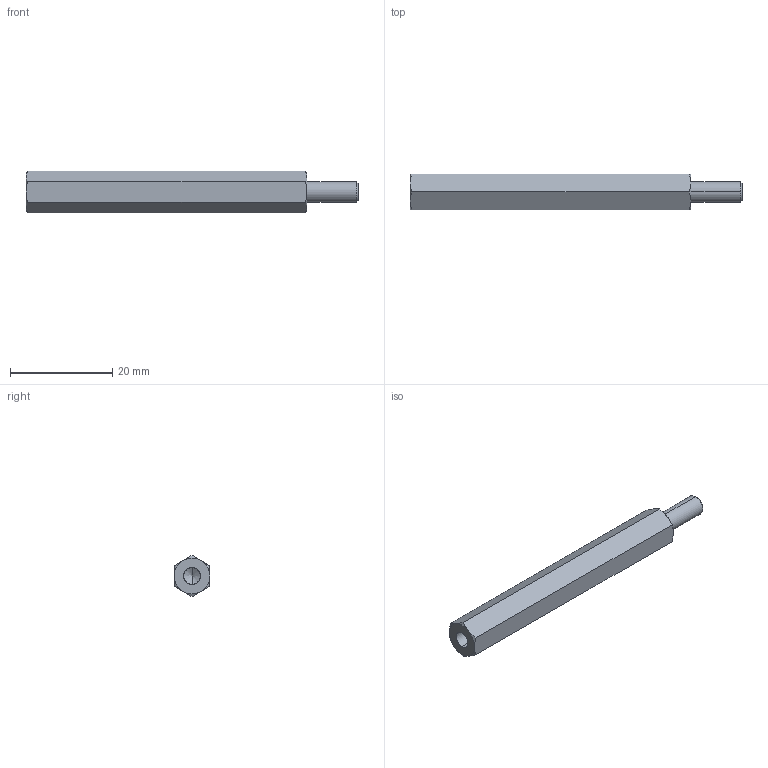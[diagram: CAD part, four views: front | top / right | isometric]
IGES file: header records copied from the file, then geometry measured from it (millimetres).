
Start section: SolidWorks IGES file using analytic representation for surfaces
Global section: file name: C:\Users\render1\Desktop\P0185_IGES\P0185.04-55.igs; native system: SolidWorks 2009; preprocessor: SolidWorks 2009; author: render1; date: 130627.112237; units: millimetre
Bounding box: 65 x 7 x 8.08 mm (x, y, z)
Surface area: 1642.5 mm2 (no closed solid volume)
Topology: 0 solids, 0 shells, 29 faces, 320 edges, 318 vertices
Faces by surface type: revolution 20, bspline 9
